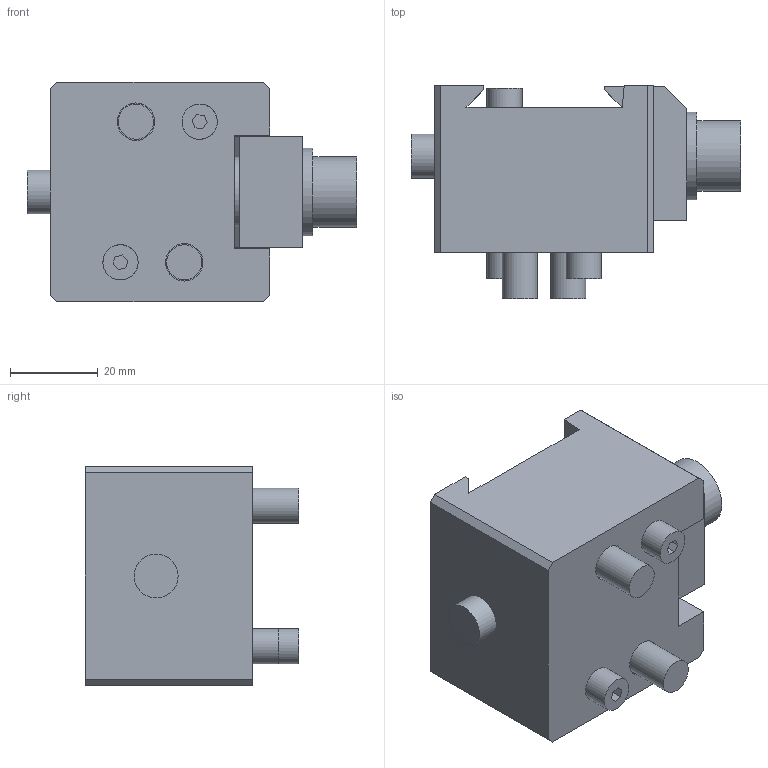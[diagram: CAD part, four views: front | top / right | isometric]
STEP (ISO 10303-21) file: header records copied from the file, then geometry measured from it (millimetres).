
FILE_DESCRIPTION (( 'STEP AP214' ), '1' );
FILE_NAME ('DM50_WEBSITE.STEP', '2025-08-11T13:30:14', ( '' ), ( '' ), 'SwSTEP 2.0', 'SolidWorks 2025', '' );
FILE_SCHEMA (( 'AUTOMOTIVE_DESIGN' ));
Length unit declared in the file: millimetre
Products named in the file (9): D_LP8_WEBSITE_LP8; D_CDM375M_WEBSITE_MILL OP2; D_SLD375_WEBSITE_SLD375; D_HW.M10.FW_WEBSITE; D_HW.76248_WEBSITE_HW.76248; DM50_WEBSITE; D_HW.LC045G02M_WEBSITE_HW.LC045G02M; D_HW.76332_WEBSITE_HW.76332; D_DM50-1_WEBSITE_METRIC UPDATED
Assembly tree (11 placements, depth 2):
  DM50_WEBSITE
    D_DM50-1_WEBSITE_METRIC UPDATED
    D_CDM375M_WEBSITE_MILL OP2
    D_SLD375_WEBSITE_SLD375
    D_HW.76332_WEBSITE_HW.76332
    D_LP8_WEBSITE_LP8  x3
    D_HW.LC045G02M_WEBSITE_HW.LC045G02M
    D_HW.M10.FW_WEBSITE
    D_HW.76248_WEBSITE_HW.76248  x2
Bounding box: 75 x 48.59 x 50 mm (x, y, z)
Volume: 92639.7 mm3; surface area: 33723.2 mm2
Topology: 11 solids, 11 shells, 167 faces, 342 edges, 218 vertices
Faces by surface type: plane 111, cylinder 31, cone 21, bspline 4
Full cylindrical faces by diameter (mm): 4.623 x2, 5 x3, 8 x5, 8.014 x3, 8.5 x3, 10 x1, 10.312 x2, 10.9 x1, 12.7 x1, 13 x2, 13.8 x2, 15.867 x1, 15.875 x1, 15.913 x2, 16 x1, 19.95 x1
Entity records: 5045 total; most frequent: CARTESIAN_POINT 2128, DIRECTION 536, ORIENTED_EDGE 442, EDGE_CURVE 221, AXIS2_PLACEMENT_3D 201, EDGE_LOOP 184, VERTEX_POINT 157, FACE_OUTER_BOUND 152
